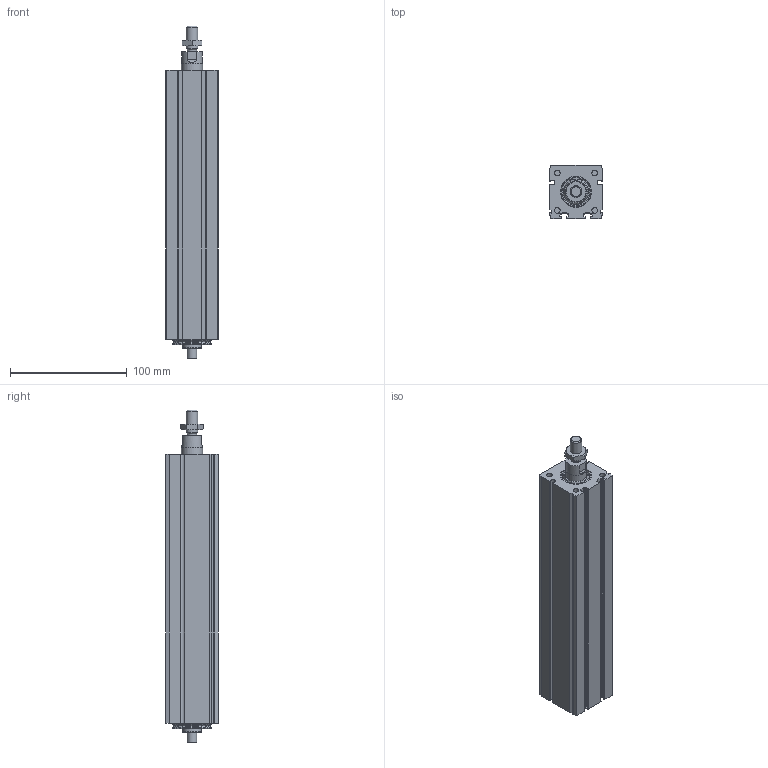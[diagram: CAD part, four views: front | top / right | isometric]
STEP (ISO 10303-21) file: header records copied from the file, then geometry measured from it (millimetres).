
FILE_DESCRIPTION(/* description */ ('STEP AP214'),/* implementation_level */ '2;1');
FILE_NAME(/* name */ 'MCE 45 1003 150 0(0)',/* time_stamp */ '2023-10-05T14:25:17+02:00',/* author */ ('License CC BY-ND 4.0'),/* organization */ ('CADENAS'),/* preprocessor_version */ 'ST-DEVELOPER v19.3',/* originating_system */ 'PARTsolutions',/* authorisation */ ' ');
FILE_SCHEMA (('AUTOMOTIVE_DESIGN {1 0 10303 214 3 1 1}'));
Length unit declared in the file: millimetre
Products named in the file (4): MCE 45 1003 150  0(0); 45_nut; 45(1500)_rod; 45(150)_msc
Assembly tree (3 placements, depth 2):
  MCE 45 1003 150  0(0)
    45_nut
    45(1500)_rod
    45(150)_msc
Bounding box: 45 x 45 x 284 mm (x, y, z)
Volume: 366073.2 mm3; surface area: 100036.6 mm2
Topology: 3 solids, 3 shells, 212 faces, 525 edges, 341 vertices
Faces by surface type: plane 92, cylinder 92, cone 23, torus 5
Full cylindrical faces by diameter (mm): 3.242 x4, 4.917 x4, 8 x2, 8.376 x1, 10 x1, 16 x1, 17.8 x1, 18 x2, 24 x1, 24.5 x1, 32.5 x2, 34 x2
Entity records: 6269 total; most frequent: CARTESIAN_POINT 1132, DIRECTION 1108, ORIENTED_EDGE 970, EDGE_CURVE 485, AXIS2_PLACEMENT_3D 433, VERTEX_POINT 339, EDGE_LOOP 274, FACE_BOUND 274
